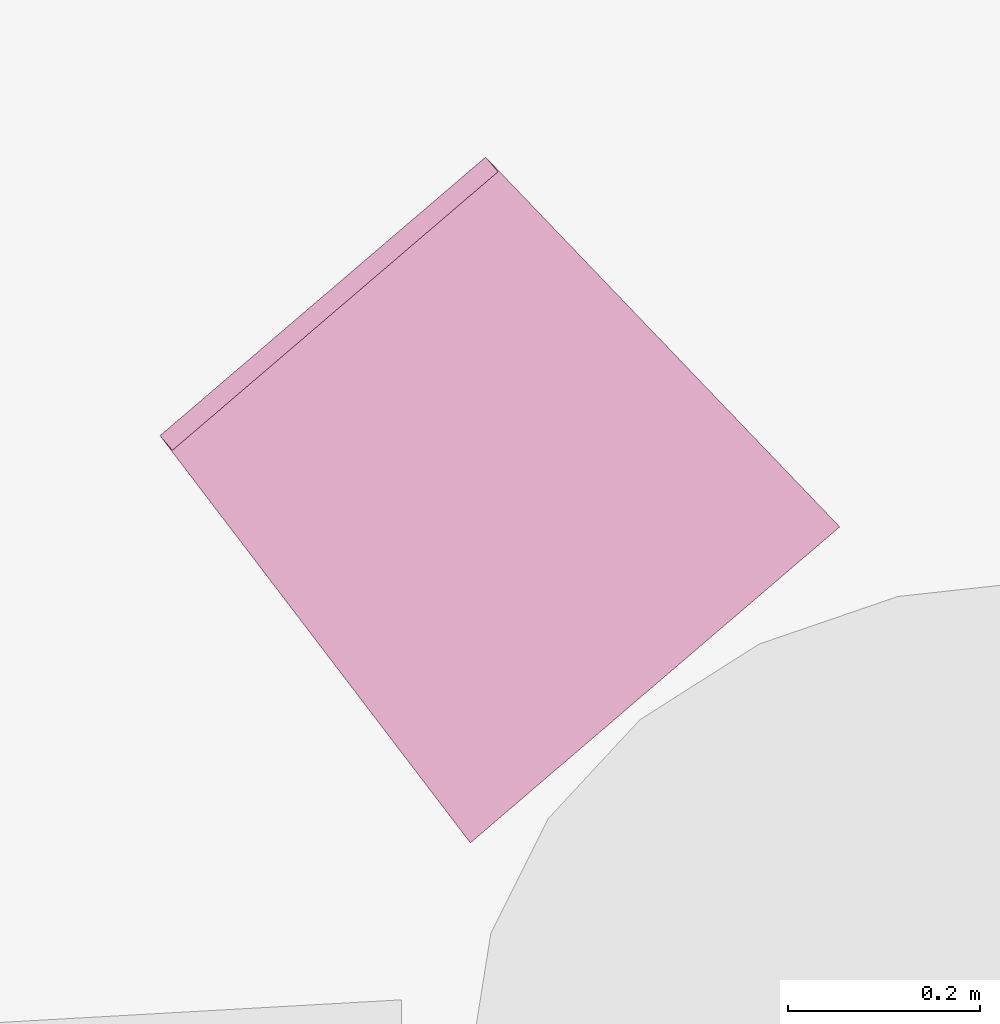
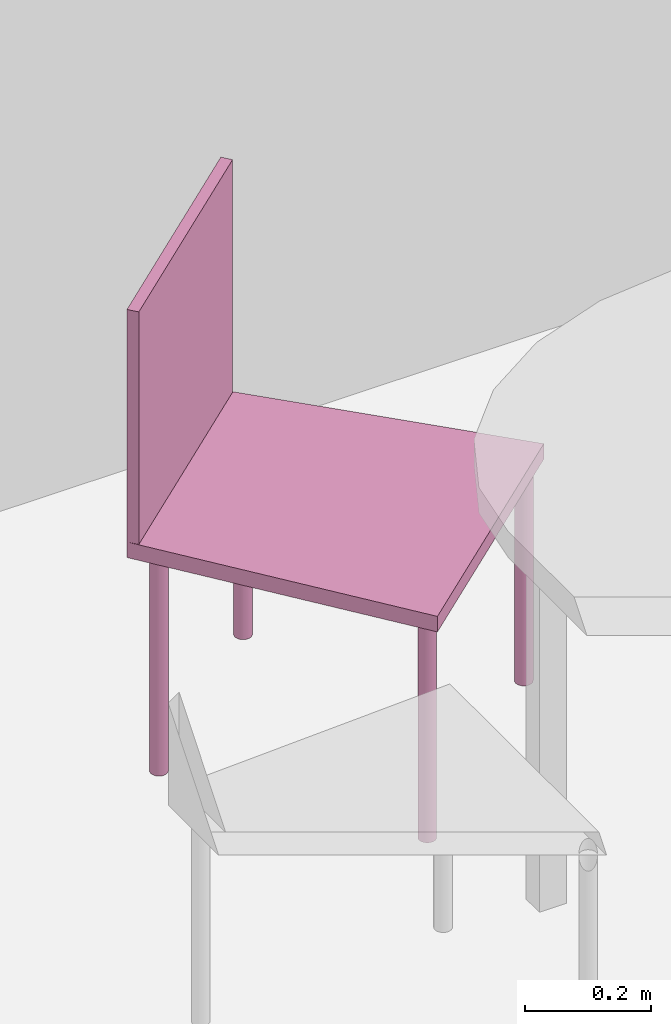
"""IFC4 building model written with IfcOpenShell, lengths in metres."""

from ifc_helpers import new_model, entity, si_unit, converted_unit, derived_unit, frame, origin, place, context, subcontext, project, spatial, faceted_brep, element, save


model = new_model("IFC4")

# Units and contexts
model_context = context("Model", 3, precision=1e-05, world=origin())
body_context = subcontext(model_context, "Body", "Model", "MODEL_VIEW")
ifc_project = project(units=[si_unit("LENGTHUNIT", "METRE"), si_unit("AREAUNIT", "SQUARE_METRE"), si_unit("VOLUMEUNIT", "CUBIC_METRE"), si_unit("MASSUNIT", "GRAM", prefix="KILO"), converted_unit("PLANEANGLEUNIT", "DEGREE", entity("IfcPlaneAngleMeasure", 0.0174532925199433), si_unit("PLANEANGLEUNIT", "RADIAN"), dimensions=[0, 0, 0, 0, 0, 0, 0]), derived_unit("THERMALTRANSMITTANCEUNIT", [(si_unit("POWERUNIT", "WATT"), 1), (si_unit("THERMODYNAMICTEMPERATUREUNIT", "KELVIN"), -1), (si_unit("LENGTHUNIT", "METRE"), -2)]), derived_unit("VOLUMETRICFLOWRATEUNIT", [(si_unit("LENGTHUNIT", "METRE"), 3), (converted_unit("TIMEUNIT", "hour", entity("IfcTimeMeasure", 3600.0), si_unit("TIMEUNIT", "SECOND"), dimensions=[0, 0, 1, 0, 0, 0, 0]), -1), (si_unit("LENGTHUNIT", "METRE"), -1)])], contexts=[model_context])

# Building, storeys
building_placement = place(None, origin())
building = spatial("IfcBuilding", under=ifc_project, at=building_placement, Name="HABITATGE PLURIFAMILIAR", CompositionType="ELEMENT")
storey_1_placement = place(building_placement, frame((0.0, 0.0, 18.29)))
storey_1 = spatial("IfcBuildingStorey", under=building, at=storey_1_placement, Name="PLANTA CINQUENA", CompositionType="ELEMENT", Elevation=18.29)
storey_2_placement = place(storey_1_placement, frame((0.0, 0.0, 15.28)))
storey_2 = spatial("IfcBuildingStorey", under=storey_1, at=storey_2_placement, Name="NOU", CompositionType="PARTIAL")

# Furniture
furniture_placement = place(storey_2_placement, frame((401.749940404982, 26.907788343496, -15.2737277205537)))
element("IfcFurniture", 1, at=furniture_placement, inside=storey_2, Name="Cadira confident_P5", context=body_context, shape_type="Brep", body=[
    faceted_brep([(0.683310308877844, 0.321238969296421, 0.0), (0.685133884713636, 0.32309766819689, 0.0), (0.686606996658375, 0.325244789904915, 0.0), (0.687684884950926, 0.32761509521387, 0.0), (0.688334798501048, 0.330136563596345, 0.0), (0.688536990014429, 0.33273258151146, 0.0), (0.688285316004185, 0.335324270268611, 0.0), (0.687587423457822, 0.337832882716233, 0.0), (0.686464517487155, 0.340182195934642, 0.0), (0.684950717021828, 0.342300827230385, 0.0), (0.683092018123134, 0.344124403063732, 0.0), (0.680944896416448, 0.345597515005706, 0.0), (0.678574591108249, 0.346675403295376, 0.0), (0.676053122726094, 0.3473253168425, 0.0), (0.673457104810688, 0.347527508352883, 0.0), (0.670865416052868, 0.347275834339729, 0.0), (0.668356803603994, 0.346577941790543, 0.0), (0.666007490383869, 0.345455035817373, 0.0), (0.663888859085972, 0.34394123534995, 0.0), (0.66206528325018, 0.342082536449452, 0.0), (0.6605921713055, 0.339935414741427, 0.0), (0.65951428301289, 0.3375651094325, 0.0), (0.65886436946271, 0.335043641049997, 0.0), (0.658662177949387, 0.332447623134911, 0.0), (0.658913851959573, 0.32985593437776, 0.0), (0.659611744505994, 0.327347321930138, 0.0), (0.660734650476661, 0.324998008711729, 0.0), (0.66224845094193, 0.322879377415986, 0.0), (0.664107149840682, 0.321055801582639, 0.0), (0.666254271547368, 0.319582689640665, 0.0), (0.668624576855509, 0.318504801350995, 0.0), (0.671146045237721, 0.317854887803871, 0.0), (0.67374206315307, 0.317652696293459, 0.0), (0.676333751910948, 0.317904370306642, 0.0), (0.67884236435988, 0.318602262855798, 0.0), (0.681191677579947, 0.319725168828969, 0.0), (0.683310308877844, 0.321238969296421, 0.448281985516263), (0.681191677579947, 0.319725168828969, 0.448281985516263), (0.67884236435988, 0.318602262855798, 0.448281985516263), (0.676333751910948, 0.317904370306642, 0.448281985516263), (0.67374206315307, 0.317652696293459, 0.448281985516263), (0.671146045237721, 0.317854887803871, 0.448281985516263), (0.668624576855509, 0.318504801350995, 0.448281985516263), (0.666254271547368, 0.319582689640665, 0.448281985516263), (0.664107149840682, 0.321055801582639, 0.448281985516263), (0.66224845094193, 0.322879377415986, 0.448281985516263), (0.660734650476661, 0.324998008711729, 0.448281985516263), (0.659611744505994, 0.327347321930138, 0.448281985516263), (0.658913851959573, 0.32985593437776, 0.448281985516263), (0.658662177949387, 0.332447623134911, 0.448281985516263), (0.65886436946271, 0.335043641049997, 0.448281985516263), (0.65951428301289, 0.3375651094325, 0.448281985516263), (0.6605921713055, 0.339935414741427, 0.448281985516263), (0.66206528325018, 0.342082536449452, 0.448281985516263), (0.663888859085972, 0.34394123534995, 0.448281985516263), (0.666007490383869, 0.345455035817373, 0.448281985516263), (0.668356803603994, 0.346577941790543, 0.448281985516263), (0.670865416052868, 0.347275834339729, 0.448281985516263), (0.673457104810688, 0.347527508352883, 0.448281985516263), (0.676053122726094, 0.3473253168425, 0.448281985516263), (0.678574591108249, 0.346675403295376, 0.448281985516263), (0.680944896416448, 0.345597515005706, 0.448281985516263), (0.683092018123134, 0.344124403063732, 0.448281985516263), (0.684950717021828, 0.342300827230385, 0.448281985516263), (0.686464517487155, 0.340182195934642, 0.448281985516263), (0.687587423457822, 0.337832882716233, 0.448281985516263), (0.688285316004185, 0.335324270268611, 0.448281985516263), (0.688536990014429, 0.33273258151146, 0.448281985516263), (0.688334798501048, 0.330136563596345, 0.448281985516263), (0.687684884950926, 0.32761509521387, 0.448281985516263), (0.686606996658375, 0.325244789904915, 0.448281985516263), (0.685133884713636, 0.32309766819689, 0.448281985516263)], [[[0, 1, 2, 3, 4, 5, 6, 7, 8, 9, 10, 11, 12, 13, 14, 15, 16, 17, 18, 19, 20, 21, 22, 23, 24, 25, 26, 27, 28, 29, 30, 31, 32, 33, 34, 35]], [[36, 37, 38, 39, 40, 41, 42, 43, 44, 45, 46, 47, 48, 49, 50, 51, 52, 53, 54, 55, 56, 57, 58, 59, 60, 61, 62, 63, 64, 65, 66, 67, 68, 69, 70, 71]], [[35, 37, 36, 0]], [[34, 38, 37, 35]], [[33, 39, 38, 34]], [[32, 40, 39, 33]], [[31, 41, 40, 32]], [[30, 42, 41, 31]], [[29, 43, 42, 30]], [[28, 44, 43, 29]], [[27, 45, 44, 28]], [[26, 46, 45, 27]], [[25, 47, 46, 26]], [[24, 48, 47, 25]], [[23, 49, 48, 24]], [[22, 50, 49, 23]], [[21, 51, 50, 22]], [[20, 52, 51, 21]], [[19, 53, 52, 20]], [[18, 54, 53, 19]], [[17, 55, 54, 18]], [[16, 56, 55, 17]], [[15, 57, 56, 16]], [[14, 58, 57, 15]], [[13, 59, 58, 14]], [[12, 60, 59, 13]], [[11, 61, 60, 12]], [[10, 62, 61, 11]], [[9, 63, 62, 10]], [[8, 64, 63, 9]], [[7, 65, 64, 8]], [[6, 66, 65, 7]], [[5, 67, 66, 6]], [[4, 68, 67, 5]], [[3, 69, 68, 4]], [[2, 70, 69, 3]], [[1, 71, 70, 2]], [[0, 36, 71, 1]]], orient=[[False], [False], [False], [False], [False], [False], [False], [False], [False], [False], [False], [False], [False], [False], [False], [False], [False], [False], [False], [False], [False], [False], [False], [False], [False], [False], [False], [False], [False], [False], [False], [False], [False], [False], [False], [False], [False], [False]]),
    faceted_brep([(0.36171419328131, 0.654645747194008, 0.0), (0.36353776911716, 0.656504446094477, 0.0), (0.365010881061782, 0.658651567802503, 0.0), (0.36608876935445, 0.661021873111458, 0.0), (0.366738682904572, 0.663543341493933, 0.0), (0.366940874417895, 0.666139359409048, 0.0), (0.366689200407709, 0.668731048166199, 0.0), (0.365991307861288, 0.671239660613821, 0.0), (0.364868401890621, 0.6735889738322, 0.0), (0.363354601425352, 0.675707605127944, 0.0), (0.361495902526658, 0.67753118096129, 0.0), (0.359348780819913, 0.679004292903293, 0.0), (0.356978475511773, 0.680082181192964, 0.0), (0.35445700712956, 0.680732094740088, 0.0), (0.351860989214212, 0.680934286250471, 0.0), (0.349269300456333, 0.680682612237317, 0.0), (0.34676068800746, 0.67998471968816, 0.0), (0.344411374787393, 0.678861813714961, 0.0), (0.342292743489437, 0.677348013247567, 0.0), (0.340469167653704, 0.675489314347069, 0.0), (0.338996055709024, 0.673342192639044, 0.0), (0.337918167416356, 0.670971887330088, 0.0), (0.337268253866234, 0.668450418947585, 0.0), (0.337066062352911, 0.66585440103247, 0.0), (0.337317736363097, 0.663262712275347, 0.0), (0.338015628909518, 0.660754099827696, 0.0), (0.339138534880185, 0.658404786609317, 0.0), (0.340652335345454, 0.656286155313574, 0.0), (0.342511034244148, 0.654462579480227, 0.0), (0.344658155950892, 0.652989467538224, 0.0), (0.347028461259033, 0.651911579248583, 0.0), (0.349549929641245, 0.65126166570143, 0.0), (0.352145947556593, 0.651059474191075, 0.0), (0.354737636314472, 0.65131114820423, 0.0), (0.357246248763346, 0.652009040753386, 0.0), (0.359595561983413, 0.653131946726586, 0.0), (0.36171419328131, 0.654645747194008, 0.448281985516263), (0.359595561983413, 0.653131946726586, 0.448281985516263), (0.357246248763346, 0.652009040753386, 0.448281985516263), (0.354737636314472, 0.65131114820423, 0.448281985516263), (0.352145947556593, 0.651059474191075, 0.448281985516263), (0.349549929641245, 0.65126166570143, 0.448281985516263), (0.347028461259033, 0.651911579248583, 0.448281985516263), (0.344658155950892, 0.652989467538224, 0.448281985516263), (0.342511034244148, 0.654462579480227, 0.448281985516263), (0.340652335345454, 0.656286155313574, 0.448281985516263), (0.339138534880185, 0.658404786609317, 0.448281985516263), (0.338015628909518, 0.660754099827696, 0.448281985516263), (0.337317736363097, 0.663262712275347, 0.448281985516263), (0.337066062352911, 0.66585440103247, 0.448281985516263), (0.337268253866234, 0.668450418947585, 0.448281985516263), (0.337918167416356, 0.670971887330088, 0.448281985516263), (0.338996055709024, 0.673342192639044, 0.448281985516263), (0.340469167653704, 0.675489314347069, 0.448281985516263), (0.342292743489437, 0.677348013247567, 0.448281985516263), (0.344411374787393, 0.678861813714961, 0.448281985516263), (0.34676068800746, 0.67998471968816, 0.448281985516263), (0.349269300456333, 0.680682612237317, 0.448281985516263), (0.351860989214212, 0.680934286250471, 0.448281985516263), (0.35445700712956, 0.680732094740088, 0.448281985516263), (0.356978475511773, 0.680082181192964, 0.448281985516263), (0.359348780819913, 0.679004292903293, 0.448281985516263), (0.361495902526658, 0.67753118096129, 0.448281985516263), (0.363354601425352, 0.675707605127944, 0.448281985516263), (0.364868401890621, 0.6735889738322, 0.448281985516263), (0.365991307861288, 0.671239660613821, 0.448281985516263), (0.366689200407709, 0.668731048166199, 0.448281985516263), (0.366940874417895, 0.666139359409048, 0.448281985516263), (0.366738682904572, 0.663543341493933, 0.448281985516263), (0.36608876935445, 0.661021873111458, 0.448281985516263), (0.365010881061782, 0.658651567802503, 0.448281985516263), (0.36353776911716, 0.656504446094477, 0.448281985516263)], [[[0, 1, 2, 3, 4, 5, 6, 7, 8, 9, 10, 11, 12, 13, 14, 15, 16, 17, 18, 19, 20, 21, 22, 23, 24, 25, 26, 27, 28, 29, 30, 31, 32, 33, 34, 35]], [[36, 37, 38, 39, 40, 41, 42, 43, 44, 45, 46, 47, 48, 49, 50, 51, 52, 53, 54, 55, 56, 57, 58, 59, 60, 61, 62, 63, 64, 65, 66, 67, 68, 69, 70, 71]], [[35, 37, 36, 0]], [[34, 38, 37, 35]], [[33, 39, 38, 34]], [[32, 40, 39, 33]], [[31, 41, 40, 32]], [[30, 42, 41, 31]], [[29, 43, 42, 30]], [[28, 44, 43, 29]], [[27, 45, 44, 28]], [[26, 46, 45, 27]], [[25, 47, 46, 26]], [[24, 48, 47, 25]], [[23, 49, 48, 24]], [[22, 50, 49, 23]], [[21, 51, 50, 22]], [[20, 52, 51, 21]], [[19, 53, 52, 20]], [[18, 54, 53, 19]], [[17, 55, 54, 18]], [[16, 56, 55, 17]], [[15, 57, 56, 16]], [[14, 58, 57, 15]], [[13, 59, 58, 14]], [[12, 60, 59, 13]], [[11, 61, 60, 12]], [[10, 62, 61, 11]], [[9, 63, 62, 10]], [[8, 64, 63, 9]], [[7, 65, 64, 8]], [[6, 66, 65, 7]], [[5, 67, 66, 6]], [[4, 68, 67, 5]], [[3, 69, 68, 4]], [[2, 70, 69, 3]], [[1, 71, 70, 2]], [[0, 36, 71, 1]]], orient=[[False], [False], [False], [False], [False], [False], [False], [False], [False], [False], [False], [False], [False], [False], [False], [False], [False], [False], [False], [False], [False], [False], [False], [False], [False], [False], [False], [False], [False], [False], [False], [False], [False], [False], [False], [False], [False], [False]]),
    faceted_brep([(0.333766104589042, 0.0222091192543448, 0.0), (0.335589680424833, 0.0240678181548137, 0.0), (0.337062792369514, 0.0262149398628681, 0.0), (0.338140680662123, 0.0285852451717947, 0.0), (0.338790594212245, 0.0311067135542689, 0.0), (0.338992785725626, 0.0337027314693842, 0.0), (0.338741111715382, 0.0362944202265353, 0.0), (0.33804321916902, 0.0388030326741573, 0.0), (0.336920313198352, 0.0411523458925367, 0.0), (0.335406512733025, 0.0432709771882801, 0.0), (0.333547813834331, 0.0450945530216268, 0.0), (0.331400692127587, 0.0465676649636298, 0.0), (0.329030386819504, 0.0476455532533, 0.0), (0.326508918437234, 0.048295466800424, 0.0), (0.323912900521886, 0.0484976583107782, 0.0), (0.321321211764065, 0.0482459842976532, 0.0), (0.318812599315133, 0.0475480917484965, 0.0), (0.316463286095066, 0.046425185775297, 0.0), (0.314344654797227, 0.0449113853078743, 0.0), (0.312521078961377, 0.0430526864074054, 0.0), (0.311047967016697, 0.0409055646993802, 0.0), (0.309970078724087, 0.0385352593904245, 0.0), (0.309320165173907, 0.0360137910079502, 0.0), (0.309117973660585, 0.0334177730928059, 0.0), (0.30936964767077, 0.0308260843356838, 0.0), (0.310067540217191, 0.0283174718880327, 0.0), (0.311190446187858, 0.0259681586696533, 0.0), (0.312704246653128, 0.02384952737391, 0.0), (0.314562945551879, 0.0220259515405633, 0.0), (0.316710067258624, 0.0205528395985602, 0.0), (0.319080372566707, 0.0194749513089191, 0.0), (0.321601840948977, 0.018825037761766, 0.0), (0.324197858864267, 0.0186228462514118, 0.0), (0.326789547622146, 0.0188745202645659, 0.0), (0.329298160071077, 0.0195724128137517, 0.0), (0.331647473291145, 0.0206953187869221, 0.0), (0.333766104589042, 0.0222091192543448, 0.448281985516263), (0.331647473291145, 0.0206953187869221, 0.448281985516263), (0.329298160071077, 0.0195724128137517, 0.448281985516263), (0.326789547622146, 0.0188745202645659, 0.448281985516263), (0.324197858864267, 0.0186228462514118, 0.448281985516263), (0.321601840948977, 0.018825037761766, 0.448281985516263), (0.319080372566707, 0.0194749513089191, 0.448281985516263), (0.316710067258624, 0.0205528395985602, 0.448281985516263), (0.314562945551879, 0.0220259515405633, 0.448281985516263), (0.312704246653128, 0.02384952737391, 0.448281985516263), (0.311190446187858, 0.0259681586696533, 0.448281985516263), (0.310067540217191, 0.0283174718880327, 0.448281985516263), (0.30936964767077, 0.0308260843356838, 0.448281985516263), (0.309117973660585, 0.0334177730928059, 0.448281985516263), (0.309320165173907, 0.0360137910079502, 0.448281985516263), (0.309970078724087, 0.0385352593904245, 0.448281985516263), (0.311047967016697, 0.0409055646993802, 0.448281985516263), (0.312521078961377, 0.0430526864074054, 0.448281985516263), (0.314344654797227, 0.0449113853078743, 0.448281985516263), (0.316463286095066, 0.046425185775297, 0.448281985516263), (0.318812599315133, 0.0475480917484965, 0.448281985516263), (0.321321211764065, 0.0482459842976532, 0.448281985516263), (0.323912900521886, 0.0484976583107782, 0.448281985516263), (0.326508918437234, 0.048295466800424, 0.448281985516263), (0.329030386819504, 0.0476455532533, 0.448281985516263), (0.331400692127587, 0.0465676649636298, 0.448281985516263), (0.333547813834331, 0.0450945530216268, 0.448281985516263), (0.335406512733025, 0.0432709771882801, 0.448281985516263), (0.336920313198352, 0.0411523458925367, 0.448281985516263), (0.33804321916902, 0.0388030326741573, 0.448281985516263), (0.338741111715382, 0.0362944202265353, 0.448281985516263), (0.338992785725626, 0.0337027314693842, 0.448281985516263), (0.338790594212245, 0.0311067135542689, 0.448281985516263), (0.338140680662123, 0.0285852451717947, 0.448281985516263), (0.337062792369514, 0.0262149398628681, 0.448281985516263), (0.335589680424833, 0.0240678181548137, 0.448281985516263)], [[[0, 1, 2, 3, 4, 5, 6, 7, 8, 9, 10, 11, 12, 13, 14, 15, 16, 17, 18, 19, 20, 21, 22, 23, 24, 25, 26, 27, 28, 29, 30, 31, 32, 33, 34, 35]], [[36, 37, 38, 39, 40, 41, 42, 43, 44, 45, 46, 47, 48, 49, 50, 51, 52, 53, 54, 55, 56, 57, 58, 59, 60, 61, 62, 63, 64, 65, 66, 67, 68, 69, 70, 71]], [[35, 37, 36, 0]], [[34, 38, 37, 35]], [[33, 39, 38, 34]], [[32, 40, 39, 33]], [[31, 41, 40, 32]], [[30, 42, 41, 31]], [[29, 43, 42, 30]], [[28, 44, 43, 29]], [[27, 45, 44, 28]], [[26, 46, 45, 27]], [[25, 47, 46, 26]], [[24, 48, 47, 25]], [[23, 49, 48, 24]], [[22, 50, 49, 23]], [[21, 51, 50, 22]], [[20, 52, 51, 21]], [[19, 53, 52, 20]], [[18, 54, 53, 19]], [[17, 55, 54, 18]], [[16, 56, 55, 17]], [[15, 57, 56, 16]], [[14, 58, 57, 15]], [[13, 59, 58, 14]], [[12, 60, 59, 13]], [[11, 61, 60, 12]], [[10, 62, 61, 11]], [[9, 63, 62, 10]], [[8, 64, 63, 9]], [[7, 65, 64, 8]], [[6, 66, 65, 7]], [[5, 67, 66, 6]], [[4, 68, 67, 5]], [[3, 69, 68, 4]], [[2, 70, 69, 3]], [[1, 71, 70, 2]], [[0, 36, 71, 1]]], orient=[[False], [False], [False], [False], [False], [False], [False], [False], [False], [False], [False], [False], [False], [False], [False], [False], [False], [False], [False], [False], [False], [False], [False], [False], [False], [False], [False], [False], [False], [False], [False], [False], [False], [False], [False], [False], [False], [False]]),
    faceted_brep([(0.057762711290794, 0.394619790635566, 0.0), (0.0595862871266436, 0.396478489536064, 0.0), (0.0610593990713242, 0.39862561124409, 0.0), (0.0621372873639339, 0.400995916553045, 0.0), (0.0627872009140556, 0.40351738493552, 0.0), (0.0629893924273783, 0.406113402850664, 0.0), (0.0627377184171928, 0.408705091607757, 0.0), (0.0620398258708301, 0.411213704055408, 0.0), (0.0609169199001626, 0.413563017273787, 0.0), (0.0594031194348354, 0.415681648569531, 0.0), (0.0575444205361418, 0.417505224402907, 0.0), (0.0553972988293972, 0.418978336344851, 0.0), (0.0530269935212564, 0.420056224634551, 0.0), (0.050505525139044, 0.420706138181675, 0.0), (0.047909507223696, 0.420908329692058, 0.0), (0.0453178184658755, 0.420656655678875, 0.0), (0.0428092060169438, 0.419958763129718, 0.0), (0.0404598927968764, 0.418835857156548, 0.0), (0.0383412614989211, 0.417322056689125, 0.0), (0.0365176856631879, 0.415463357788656, 0.0), (0.0350445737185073, 0.413316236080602, 0.0), (0.0339666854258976, 0.410945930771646, 0.0), (0.0333167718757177, 0.408424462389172, 0.0), (0.0331145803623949, 0.405828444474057, 0.0), (0.0333662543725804, 0.403236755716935, 0.0), (0.0340641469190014, 0.400728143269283, 0.0), (0.0351870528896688, 0.398378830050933, 0.0), (0.0367008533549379, 0.396260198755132, 0.0), (0.0385595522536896, 0.394436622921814, 0.0), (0.0407066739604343, 0.39296351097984, 0.0), (0.0430769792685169, 0.391885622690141, 0.0), (0.0455984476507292, 0.391235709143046, 0.0), (0.0481944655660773, 0.391033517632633, 0.0), (0.050786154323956, 0.391285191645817, 0.0), (0.0532947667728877, 0.391983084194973, 0.0), (0.0556440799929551, 0.393105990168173, 0.0), (0.057762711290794, 0.394619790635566, 0.448281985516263), (0.0556440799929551, 0.393105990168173, 0.448281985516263), (0.0532947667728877, 0.391983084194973, 0.448281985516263), (0.050786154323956, 0.391285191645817, 0.448281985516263), (0.0481944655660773, 0.391033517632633, 0.448281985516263), (0.0455984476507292, 0.391235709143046, 0.448281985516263), (0.0430769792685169, 0.391885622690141, 0.448281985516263), (0.0407066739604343, 0.39296351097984, 0.448281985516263), (0.0385595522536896, 0.394436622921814, 0.448281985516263), (0.0367008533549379, 0.396260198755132, 0.448281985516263), (0.0351870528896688, 0.398378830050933, 0.448281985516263), (0.0340641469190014, 0.400728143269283, 0.448281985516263), (0.0333662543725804, 0.403236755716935, 0.448281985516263), (0.0331145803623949, 0.405828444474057, 0.448281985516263), (0.0333167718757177, 0.408424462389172, 0.448281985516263), (0.0339666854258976, 0.410945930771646, 0.448281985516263), (0.0350445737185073, 0.413316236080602, 0.448281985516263), (0.0365176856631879, 0.415463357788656, 0.448281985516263), (0.0383412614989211, 0.417322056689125, 0.448281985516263), (0.0404598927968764, 0.418835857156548, 0.448281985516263), (0.0428092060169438, 0.419958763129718, 0.448281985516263), (0.0453178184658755, 0.420656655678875, 0.448281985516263), (0.047909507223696, 0.420908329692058, 0.448281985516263), (0.050505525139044, 0.420706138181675, 0.448281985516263), (0.0530269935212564, 0.420056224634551, 0.448281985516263), (0.0553972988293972, 0.418978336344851, 0.448281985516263), (0.0575444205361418, 0.417505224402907, 0.448281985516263), (0.0594031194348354, 0.415681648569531, 0.448281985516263), (0.0609169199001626, 0.413563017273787, 0.448281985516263), (0.0620398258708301, 0.411213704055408, 0.448281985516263), (0.0627377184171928, 0.408705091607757, 0.448281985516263), (0.0629893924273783, 0.406113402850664, 0.448281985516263), (0.0627872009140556, 0.40351738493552, 0.448281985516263), (0.0621372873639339, 0.400995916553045, 0.448281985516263), (0.0610593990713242, 0.39862561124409, 0.448281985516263), (0.0595862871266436, 0.396478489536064, 0.448281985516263)], [[[0, 1, 2, 3, 4, 5, 6, 7, 8, 9, 10, 11, 12, 13, 14, 15, 16, 17, 18, 19, 20, 21, 22, 23, 24, 25, 26, 27, 28, 29, 30, 31, 32, 33, 34, 35]], [[36, 37, 38, 39, 40, 41, 42, 43, 44, 45, 46, 47, 48, 49, 50, 51, 52, 53, 54, 55, 56, 57, 58, 59, 60, 61, 62, 63, 64, 65, 66, 67, 68, 69, 70, 71]], [[35, 37, 36, 0]], [[34, 38, 37, 35]], [[33, 39, 38, 34]], [[32, 40, 39, 33]], [[31, 41, 40, 32]], [[30, 42, 41, 31]], [[29, 43, 42, 30]], [[28, 44, 43, 29]], [[27, 45, 44, 28]], [[26, 46, 45, 27]], [[25, 47, 46, 26]], [[24, 48, 47, 25]], [[23, 49, 48, 24]], [[22, 50, 49, 23]], [[21, 51, 50, 22]], [[20, 52, 51, 21]], [[19, 53, 52, 20]], [[18, 54, 53, 19]], [[17, 55, 54, 18]], [[16, 56, 55, 17]], [[15, 57, 56, 16]], [[14, 58, 57, 15]], [[13, 59, 58, 14]], [[12, 60, 59, 13]], [[11, 61, 60, 12]], [[10, 62, 61, 11]], [[9, 63, 62, 10]], [[8, 64, 63, 9]], [[7, 65, 64, 8]], [[6, 66, 65, 7]], [[5, 67, 66, 6]], [[4, 68, 67, 5]], [[3, 69, 68, 4]], [[2, 70, 69, 3]], [[1, 71, 70, 2]], [[0, 36, 71, 1]]], orient=[[False], [False], [False], [False], [False], [False], [False], [False], [False], [False], [False], [False], [False], [False], [False], [False], [False], [False], [False], [False], [False], [False], [False], [False], [False], [False], [False], [False], [False], [False], [False], [False], [False], [False], [False], [False], [False], [False]]),
    faceted_brep([(0.0, 0.42421927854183, 0.41828198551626), (0.323433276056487, 0.0, 0.41828198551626), (0.708323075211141, 0.329267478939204, 0.41828198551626), (0.339297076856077, 0.714482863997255, 0.41828198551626), (0.323433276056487, 0.0, 0.44828198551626), (0.0, 0.42421927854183, 0.44828198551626), (0.339297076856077, 0.714482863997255, 0.44828198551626), (0.708323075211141, 0.329267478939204, 0.44828198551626)], [[[0, 1, 2, 3]], [[4, 5, 6, 7]], [[1, 0, 5, 4]], [[2, 1, 4, 7]], [[3, 2, 7, 6]], [[0, 3, 6, 5]]], orient=[[False], [False], [False], [False], [False], [False]]),
    faceted_brep([(0.0130012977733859, 0.409021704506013, 0.44828198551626), (0.352298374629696, 0.699285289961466, 0.44828198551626), (0.339297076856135, 0.714482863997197, 0.44828198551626), (0.0, 0.424219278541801, 0.44828198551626), (0.352298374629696, 0.699285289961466, 0.898281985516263), (0.0130012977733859, 0.409021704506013, 0.898281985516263), (0.0, 0.424219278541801, 0.898281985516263), (0.339297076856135, 0.714482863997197, 0.898281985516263)], [[[0, 1, 2, 3]], [[4, 5, 6, 7]], [[1, 0, 5, 4]], [[2, 1, 4, 7]], [[3, 2, 7, 6]], [[0, 3, 6, 5]]], orient=[[False], [False], [False], [False], [False], [False]]),
])

save(model, "model.ifc")
